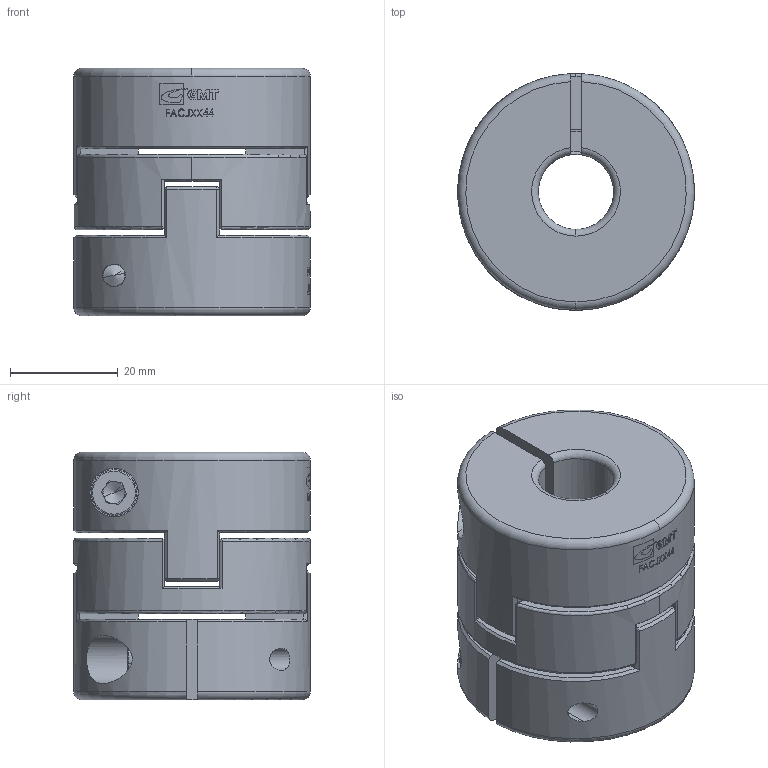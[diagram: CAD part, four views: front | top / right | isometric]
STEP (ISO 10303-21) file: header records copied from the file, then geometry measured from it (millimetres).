
FILE_DESCRIPTION (( 'STEP AP203' ), '1' );
FILE_NAME ('FACJLK44.STEP', '2008-04-04T08:34:59', ( '陳志豪' ), ( '高明鐵企業股份有限公司' ), 'SwSTEP 2.0', 'SolidWorks 2007', '' );
FILE_SCHEMA (( 'CONFIG_CONTROL_DESIGN' ));
Length unit declared in the file: millimetre
Products named in the file (1): FACJLK44
Bounding box: 43.99 x 44 x 46 mm (x, y, z)
Surface area: 17916.7 mm2 (no closed solid volume)
Topology: 0 solids, 10 shells, 266 faces, 1286 edges, 994 vertices
Faces by surface type: plane 130, cylinder 51, bspline 49, cone 19, torus 17
Entity records: 16201 total; most frequent: CARTESIAN_POINT 7255, ORIENTED_EDGE 1803, DIRECTION 1441, EDGE_CURVE 1282, VERTEX_POINT 994, B_SPLINE_CURVE_WITH_KNOTS 586, AXIS2_PLACEMENT_3D 529, VECTOR 383
